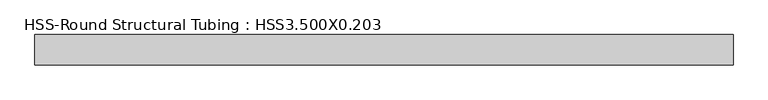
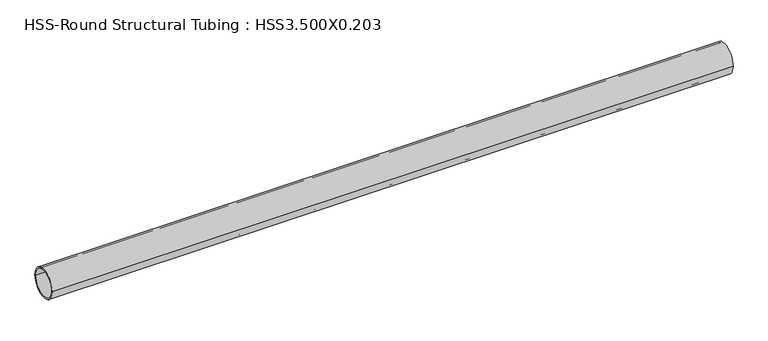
"""IFC4 building model written with IfcOpenShell, lengths in millimetres: member geometry, HSS-Round Structural Tubing : HSS3.500X0.203."""

from ifc_helpers import new_model, si_unit, point, frame, origin, origin_2d, place, context, project, spatial, circle_curve, trimmed, segment, composite_curve, outline, extrude, source, transform, mapped, element, save


def hss_round_structural_tubing_hss3_500x0_203_b82d731a(model_context):
    return source(origin(), model_context, "Body", "SweptSolid", [
        extrude(outline(composite_curve([segment(trimmed(circle_curve(origin_2d(), 44.45), [point((-44.45, 0.0))], [point((44.45, 0.0))], False, "CARTESIAN"), True, "CONTINUOUS"), segment(trimmed(circle_curve(origin_2d(), 44.45), [point((44.45, 0.0))], [point((-44.45, 0.0))], False, "CARTESIAN"), True, "CONTINUOUS")], self_intersect=False), holes=[composite_curve([segment(trimmed(circle_curve(origin_2d(), 39.6494), [point((39.6494, 0.0))], [point((-39.6494, 0.0))], True, "CARTESIAN"), True, "CONTINUOUS"), segment(trimmed(circle_curve(origin_2d(), 39.6494), [point((-39.6494, 0.0))], [point((39.6494, 0.0))], True, "CARTESIAN"), True, "CONTINUOUS")], self_intersect=False)]), frame((-1015.0428627, 0.0, 0.0), z_axis=(1.0, 0.0, 0.0), x_axis=(0.0, 1.0, 0.0)), (0.0, 0.0, 1.0), 2030.0857253),
    ])


if __name__ == "__main__":
    model = new_model("IFC4")
    model_context = context("Model", 3, world=origin())
    ifc_project = project(units=[si_unit("LENGTHUNIT", "METRE", prefix="MILLI")], contexts=[model_context])
    site = spatial("IfcSite", under=ifc_project)
    building = spatial("IfcBuilding", under=site)
    placement = place(None, origin())
    hss_round_structural_tubing_hss3_500x0_203_shape = hss_round_structural_tubing_hss3_500x0_203_b82d731a(model_context)
    element("IfcMember", 1, ObjectType="HSS-Round Structural Tubing : HSS3.500X0.203", at=placement, inside=building, context=model_context, shape_type="MappedRepresentation", body=[
        mapped(hss_round_structural_tubing_hss3_500x0_203_shape, transform((0.0, 0.0, 0.0), x_axis=(1.0, 0.0, 0.0), y_axis=(0.0, 1.0, 0.0), z_axis=(0.0, 0.0, 1.0))),
    ])
    save(model, "model.ifc")
